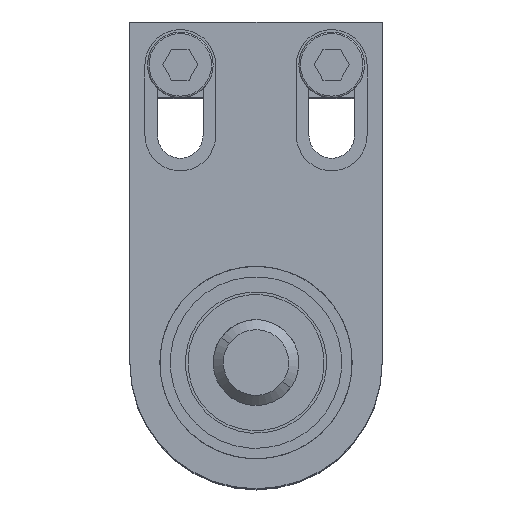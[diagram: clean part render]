
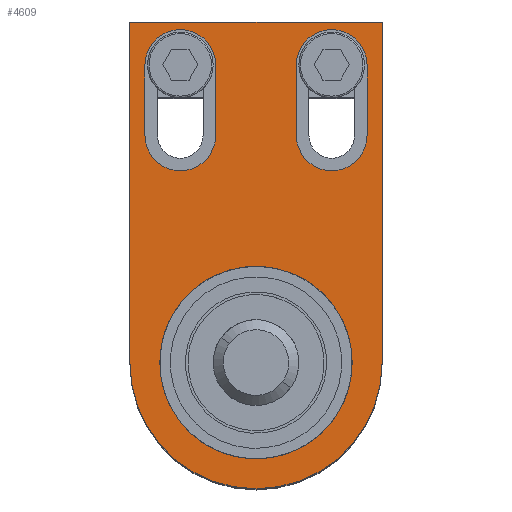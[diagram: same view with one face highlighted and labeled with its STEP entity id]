
A CAD part, top view. The second image highlights one B-rep face of the part: STEP entity #4609.
In plain terms, the highlighted planar face has unit normal (0, 0, 1).
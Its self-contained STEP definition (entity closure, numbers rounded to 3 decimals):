
#42 = EDGE_CURVE ( 'NONE', #119, #4664, #5908, .T. ) ;
#119 = VERTEX_POINT ( 'NONE', #3900 ) ;
#120 = DIRECTION ( 'NONE',  ( 0., -1., 0. ) ) ;
#159 = EDGE_CURVE ( 'NONE', #4491, #1984, #2298, .T. ) ;
#190 = DIRECTION ( 'NONE',  ( 1., 0., 0. ) ) ;
#264 = ORIENTED_EDGE ( 'NONE', *, *, #42, .F. ) ;
#300 = CARTESIAN_POINT ( 'NONE',  ( 0., 0., 6. ) ) ;
#311 = VERTEX_POINT ( 'NONE', #1980 ) ;
#411 = CARTESIAN_POINT ( 'NONE',  ( -8., 59., 6. ) ) ;
#427 = ORIENTED_EDGE ( 'NONE', *, *, #3441, .F. ) ;
#447 = DIRECTION ( 'NONE',  ( 0., 0., 1. ) ) ;
#462 = CARTESIAN_POINT ( 'NONE',  ( 19.079, 0., 6. ) ) ;
#538 = ORIENTED_EDGE ( 'NONE', *, *, #2459, .T. ) ;
#550 = AXIS2_PLACEMENT_3D ( 'NONE', #2462, #3463, #4781 ) ;
#573 = AXIS2_PLACEMENT_3D ( 'NONE', #2715, #4581, #4070 ) ;
#585 = VERTEX_POINT ( 'NONE', #411 ) ;
#591 = EDGE_CURVE ( 'NONE', #585, #596, #3560, .T. ) ;
#596 = VERTEX_POINT ( 'NONE', #2673 ) ;
#622 = CARTESIAN_POINT ( 'NONE',  ( 0., 0., 6. ) ) ;
#651 = CARTESIAN_POINT ( 'NONE',  ( -22., 59., 6. ) ) ;
#718 = EDGE_LOOP ( 'NONE', ( #3680, #3561 ) ) ;
#728 = CARTESIAN_POINT ( 'NONE',  ( 22., 59., 6. ) ) ;
#736 = ORIENTED_EDGE ( 'NONE', *, *, #591, .F. ) ;
#764 = CARTESIAN_POINT ( 'NONE',  ( 22., 59., 6. ) ) ;
#804 = CARTESIAN_POINT ( 'NONE',  ( 25., 67.5, 6. ) ) ;
#841 = VECTOR ( 'NONE', #2070, 1000. ) ;
#903 = ORIENTED_EDGE ( 'NONE', *, *, #3896, .T. ) ;
#922 = EDGE_LOOP ( 'NONE', ( #903, #4450, #538, #3531 ) ) ;
#1031 = DIRECTION ( 'NONE',  ( 1., 0., 0. ) ) ;
#1059 = VECTOR ( 'NONE', #120, 1000. ) ;
#1066 = DIRECTION ( 'NONE',  ( 0., 0., 1. ) ) ;
#1163 = LINE ( 'NONE', #1227, #3936 ) ;
#1167 = CIRCLE ( 'NONE', #5333, 25. ) ;
#1178 = FACE_OUTER_BOUND ( 'NONE', #922, .T. ) ;
#1227 = CARTESIAN_POINT ( 'NONE',  ( -25., 0., 6. ) ) ;
#1251 = DIRECTION ( 'NONE',  ( 0., 0., 1. ) ) ;
#1303 = VERTEX_POINT ( 'NONE', #1416 ) ;
#1310 = ORIENTED_EDGE ( 'NONE', *, *, #4235, .F. ) ;
#1416 = CARTESIAN_POINT ( 'NONE',  ( -25., 0., 6. ) ) ;
#1468 = CIRCLE ( 'NONE', #5365, 7. ) ;
#1509 = CARTESIAN_POINT ( 'NONE',  ( -19.079, 0., 6. ) ) ;
#1575 = CARTESIAN_POINT ( 'NONE',  ( 15., 59., 6. ) ) ;
#1589 = VERTEX_POINT ( 'NONE', #462 ) ;
#1820 = AXIS2_PLACEMENT_3D ( 'NONE', #3480, #3933, #190 ) ;
#1835 = LINE ( 'NONE', #651, #4167 ) ;
#1859 = VECTOR ( 'NONE', #5538, 1000. ) ;
#1972 = VERTEX_POINT ( 'NONE', #1509 ) ;
#1980 = CARTESIAN_POINT ( 'NONE',  ( 25., 0., 6. ) ) ;
#1983 = CARTESIAN_POINT ( 'NONE',  ( 8., 59., 6. ) ) ;
#1984 = VERTEX_POINT ( 'NONE', #1996 ) ;
#1996 = CARTESIAN_POINT ( 'NONE',  ( 8., 59., 6. ) ) ;
#2016 = AXIS2_PLACEMENT_3D ( 'NONE', #1575, #4848, #5322 ) ;
#2054 = DIRECTION ( 'NONE',  ( 0., 0., 1. ) ) ;
#2070 = DIRECTION ( 'NONE',  ( 0., 1., 0. ) ) ;
#2174 = DIRECTION ( 'NONE',  ( 0., -1., 0. ) ) ;
#2271 = EDGE_CURVE ( 'NONE', #2997, #585, #3335, .T. ) ;
#2298 = CIRCLE ( 'NONE', #2016, 7. ) ;
#2459 = EDGE_CURVE ( 'NONE', #2508, #4851, #5571, .T. ) ;
#2462 = CARTESIAN_POINT ( 'NONE',  ( 0., 0., 6. ) ) ;
#2494 = EDGE_LOOP ( 'NONE', ( #736, #4881, #427, #3934 ) ) ;
#2508 = VERTEX_POINT ( 'NONE', #4185 ) ;
#2518 = EDGE_CURVE ( 'NONE', #311, #2508, #3408, .T. ) ;
#2525 = DIRECTION ( 'NONE',  ( 0., -1., 0. ) ) ;
#2628 = EDGE_CURVE ( 'NONE', #1984, #119, #3546, .T. ) ;
#2656 = FACE_BOUND ( 'NONE', #4915, .T. ) ;
#2673 = CARTESIAN_POINT ( 'NONE',  ( -22., 59., 6. ) ) ;
#2704 = CARTESIAN_POINT ( 'NONE',  ( -15., 45., 6. ) ) ;
#2715 = CARTESIAN_POINT ( 'NONE',  ( -15., 59., 6. ) ) ;
#2739 = CARTESIAN_POINT ( 'NONE',  ( 25., 0., 6. ) ) ;
#2997 = VERTEX_POINT ( 'NONE', #4187 ) ;
#3211 = ORIENTED_EDGE ( 'NONE', *, *, #159, .F. ) ;
#3335 = LINE ( 'NONE', #5855, #841 ) ;
#3375 = CIRCLE ( 'NONE', #550, 19.079 ) ;
#3408 = LINE ( 'NONE', #2739, #1859 ) ;
#3441 = EDGE_CURVE ( 'NONE', #3490, #2997, #1468, .T. ) ;
#3463 = DIRECTION ( 'NONE',  ( 0., 0., 1. ) ) ;
#3480 = CARTESIAN_POINT ( 'NONE',  ( 15., 45., 6. ) ) ;
#3490 = VERTEX_POINT ( 'NONE', #4138 ) ;
#3522 = VECTOR ( 'NONE', #5401, 1000. ) ;
#3531 = ORIENTED_EDGE ( 'NONE', *, *, #5608, .T. ) ;
#3546 = LINE ( 'NONE', #1983, #1059 ) ;
#3560 = CIRCLE ( 'NONE', #573, 7. ) ;
#3561 = ORIENTED_EDGE ( 'NONE', *, *, #3843, .F. ) ;
#3680 = ORIENTED_EDGE ( 'NONE', *, *, #4517, .F. ) ;
#3843 = EDGE_CURVE ( 'NONE', #1589, #1972, #3375, .T. ) ;
#3896 = EDGE_CURVE ( 'NONE', #1303, #311, #1167, .T. ) ;
#3900 = CARTESIAN_POINT ( 'NONE',  ( 8., 45., 6. ) ) ;
#3933 = DIRECTION ( 'NONE',  ( 0., 0., 1. ) ) ;
#3934 = ORIENTED_EDGE ( 'NONE', *, *, #5491, .F. ) ;
#3936 = VECTOR ( 'NONE', #2174, 1000. ) ;
#4022 = CARTESIAN_POINT ( 'NONE',  ( 22., 45., 6. ) ) ;
#4070 = DIRECTION ( 'NONE',  ( 1., 0., 0. ) ) ;
#4081 = DIRECTION ( 'NONE',  ( 1., 0., 0. ) ) ;
#4138 = CARTESIAN_POINT ( 'NONE',  ( -22., 45., 6. ) ) ;
#4167 = VECTOR ( 'NONE', #2525, 1000. ) ;
#4183 = AXIS2_PLACEMENT_3D ( 'NONE', #300, #1251, #4081 ) ;
#4185 = CARTESIAN_POINT ( 'NONE',  ( 25., 67.5, 6. ) ) ;
#4187 = CARTESIAN_POINT ( 'NONE',  ( -8., 45., 6. ) ) ;
#4235 = EDGE_CURVE ( 'NONE', #4664, #4491, #4237, .T. ) ;
#4237 = LINE ( 'NONE', #764, #3522 ) ;
#4334 = VECTOR ( 'NONE', #4502, 1000. ) ;
#4401 = AXIS2_PLACEMENT_3D ( 'NONE', #5378, #2054, #5747 ) ;
#4450 = ORIENTED_EDGE ( 'NONE', *, *, #2518, .T. ) ;
#4491 = VERTEX_POINT ( 'NONE', #728 ) ;
#4502 = DIRECTION ( 'NONE',  ( -1., 0., 0. ) ) ;
#4517 = EDGE_CURVE ( 'NONE', #1972, #1589, #4946, .T. ) ;
#4581 = DIRECTION ( 'NONE',  ( 0., 0., 1. ) ) ;
#4609 = ADVANCED_FACE ( 'NONE', ( #2656, #5628, #5330, #1178 ), #5417, .T. ) ;
#4664 = VERTEX_POINT ( 'NONE', #4022 ) ;
#4781 = DIRECTION ( 'NONE',  ( 1., 0., 0. ) ) ;
#4848 = DIRECTION ( 'NONE',  ( 0., 0., 1. ) ) ;
#4851 = VERTEX_POINT ( 'NONE', #5963 ) ;
#4881 = ORIENTED_EDGE ( 'NONE', *, *, #2271, .F. ) ;
#4885 = ORIENTED_EDGE ( 'NONE', *, *, #2628, .F. ) ;
#4915 = EDGE_LOOP ( 'NONE', ( #3211, #1310, #264, #4885 ) ) ;
#4946 = CIRCLE ( 'NONE', #4401, 19.079 ) ;
#4999 = DIRECTION ( 'NONE',  ( 1., 0., 0. ) ) ;
#5322 = DIRECTION ( 'NONE',  ( 1., 0., 0. ) ) ;
#5330 = FACE_BOUND ( 'NONE', #718, .T. ) ;
#5333 = AXIS2_PLACEMENT_3D ( 'NONE', #622, #1066, #1031 ) ;
#5365 = AXIS2_PLACEMENT_3D ( 'NONE', #2704, #447, #4999 ) ;
#5378 = CARTESIAN_POINT ( 'NONE',  ( 0., 0., 6. ) ) ;
#5401 = DIRECTION ( 'NONE',  ( 0., 1., 0. ) ) ;
#5417 = PLANE ( 'NONE',  #4183 ) ;
#5491 = EDGE_CURVE ( 'NONE', #596, #3490, #1835, .T. ) ;
#5538 = DIRECTION ( 'NONE',  ( 0., 1., 0. ) ) ;
#5571 = LINE ( 'NONE', #804, #4334 ) ;
#5608 = EDGE_CURVE ( 'NONE', #4851, #1303, #1163, .T. ) ;
#5628 = FACE_BOUND ( 'NONE', #2494, .T. ) ;
#5747 = DIRECTION ( 'NONE',  ( 1., 0., 0. ) ) ;
#5855 = CARTESIAN_POINT ( 'NONE',  ( -8., 59., 6. ) ) ;
#5908 = CIRCLE ( 'NONE', #1820, 7. ) ;
#5963 = CARTESIAN_POINT ( 'NONE',  ( -25., 67.5, 6. ) ) ;
